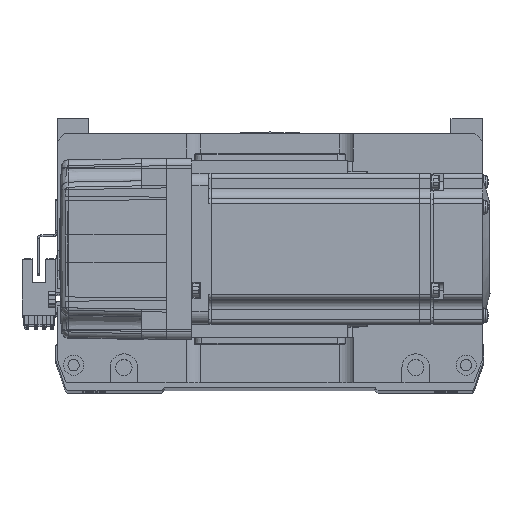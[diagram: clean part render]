
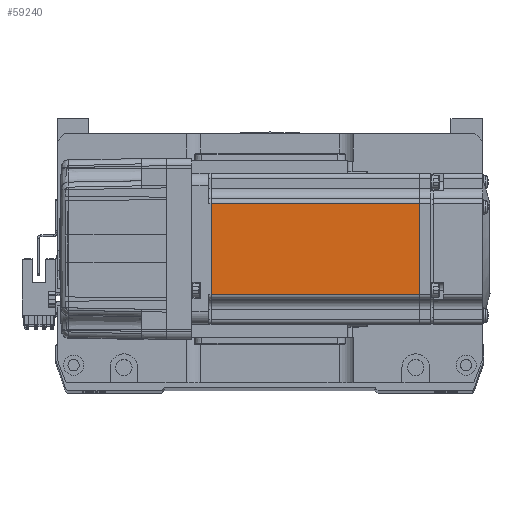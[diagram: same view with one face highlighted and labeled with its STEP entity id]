
A CAD part, top view. The second image highlights one B-rep face of the part: STEP entity #59240.
In plain terms, the highlighted planar face has unit normal (0, 0, 1) as drawn and (0, -1, 0) by its records, which use the part's own axes.
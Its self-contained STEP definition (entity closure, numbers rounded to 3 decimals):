
#2238 = LINE ( 'NONE', #31372, #49013 ) ;
#5289 = VECTOR ( 'NONE', #45786, 1000. ) ;
#8241 = ORIENTED_EDGE ( 'NONE', *, *, #44257, .T. ) ;
#9185 = VERTEX_POINT ( 'NONE', #17812 ) ;
#11217 = VERTEX_POINT ( 'NONE', #40746 ) ;
#11853 = EDGE_CURVE ( 'NONE', #11217, #56152, #2238, .T. ) ;
#12040 = ORIENTED_EDGE ( 'NONE', *, *, #42526, .T. ) ;
#14259 = VECTOR ( 'NONE', #34830, 1000. ) ;
#15459 = FACE_OUTER_BOUND ( 'NONE', #52553, .T. ) ;
#15607 = DIRECTION ( 'NONE',  ( 1., 0., 0. ) ) ;
#17812 = CARTESIAN_POINT ( 'NONE',  ( -90.45, -30., 18. ) ) ;
#17825 = CARTESIAN_POINT ( 'NONE',  ( -6.5, -30., -25. ) ) ;
#17858 = CARTESIAN_POINT ( 'NONE',  ( -7.75, -30., 18. ) ) ;
#23514 = LINE ( 'NONE', #30968, #36816 ) ;
#29606 = ORIENTED_EDGE ( 'NONE', *, *, #11853, .T. ) ;
#29695 = AXIS2_PLACEMENT_3D ( 'NONE', #17825, #46455, #60589 ) ;
#30968 = CARTESIAN_POINT ( 'NONE',  ( -90.45, -30., -25. ) ) ;
#31073 = CARTESIAN_POINT ( 'NONE',  ( -7.75, -30., -18. ) ) ;
#31372 = CARTESIAN_POINT ( 'NONE',  ( -6.5, -30., -18. ) ) ;
#31482 = CARTESIAN_POINT ( 'NONE',  ( -6.5, -30., 18. ) ) ;
#32769 = PLANE ( 'NONE',  #29695 ) ;
#33410 = EDGE_CURVE ( 'NONE', #9185, #11217, #23514, .T. ) ;
#34830 = DIRECTION ( 'NONE',  ( 0., 0., 1. ) ) ;
#36816 = VECTOR ( 'NONE', #60896, 1000. ) ;
#39847 = VERTEX_POINT ( 'NONE', #17858 ) ;
#40746 = CARTESIAN_POINT ( 'NONE',  ( -90.45, -30., -18. ) ) ;
#42526 = EDGE_CURVE ( 'NONE', #56152, #39847, #44722, .T. ) ;
#43766 = CARTESIAN_POINT ( 'NONE',  ( -7.75, -30., -25. ) ) ;
#44257 = EDGE_CURVE ( 'NONE', #39847, #9185, #51245, .T. ) ;
#44722 = LINE ( 'NONE', #43766, #14259 ) ;
#45786 = DIRECTION ( 'NONE',  ( -1., 0., 0. ) ) ;
#46455 = DIRECTION ( 'NONE',  ( 0., -1., 0. ) ) ;
#49013 = VECTOR ( 'NONE', #15607, 1000. ) ;
#51074 = ORIENTED_EDGE ( 'NONE', *, *, #33410, .T. ) ;
#51245 = LINE ( 'NONE', #31482, #5289 ) ;
#52553 = EDGE_LOOP ( 'NONE', ( #12040, #8241, #51074, #29606 ) ) ;
#56152 = VERTEX_POINT ( 'NONE', #31073 ) ;
#59240 = ADVANCED_FACE ( 'NONE', ( #15459 ), #32769, .T. ) ;
#60589 = DIRECTION ( 'NONE',  ( 0., 0., -1. ) ) ;
#60896 = DIRECTION ( 'NONE',  ( 0., 0., -1. ) ) ;
